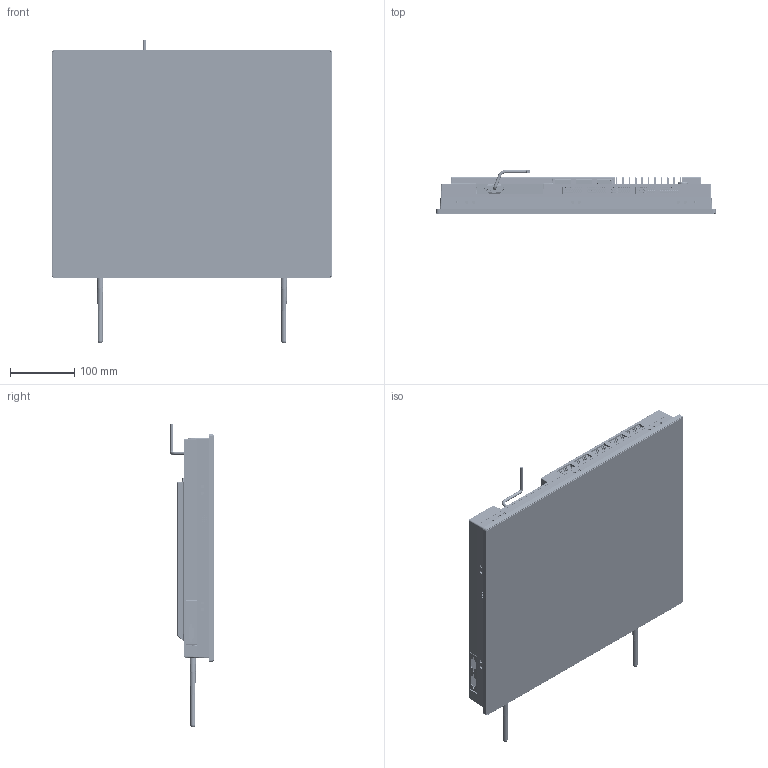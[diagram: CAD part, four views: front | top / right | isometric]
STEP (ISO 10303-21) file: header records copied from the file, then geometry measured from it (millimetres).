
FILE_DESCRIPTION (( 'STEP AP214' ), '1' );
FILE_NAME ('PPC-3170-RE4BE.STEP', '2019-01-07T01:43:10', ( '' ), ( '' ), 'SwSTEP 2.0', 'SolidWorks 2016', '' );
FILE_SCHEMA (( 'AUTOMOTIVE_DESIGN' ));
Length unit declared in the file: millimetre
Products named in the file (33): Antenna-L-3170_蕼偞; PCM-8211-1213_蕼偞; WIFI导热BKT_預設; BRACKET-HDD-PPC3150_蕼偞; heatsink MEI bracket_蕼偞; Rear Cover assy PPC-3170C_蕼偞; 翞翐 M3-L 25_蕼偞; PPC-3170-RE4BE; PPC-3170 bracket IO_蕼偞; ironnet-1_蕼偞; AMT 17 GG_蕼偞; 1-pci-bkt; Speaker-1.2_蕼偞; Assm Front Bezel new  for PPC-3170C_蕼偞; EMI  bracket for PPC-3170_蕼偞; VASA_蕼偞; HEATSINK-PPC3150_蕼偞; Antenna-R-3170_蕼偞; Antenna_蕼偞; bracket for thermal-3150_蕼偞; ADD-ON_PCI-E_Card_蕼偞; Antenna-Base_蕼偞; realcover-ppc-3170-0307modify-2_蕼偞; BRACKET-EXP CARD-3170_蕼偞; MBFrame-ppc3170C_蕼偞; side IO BKT_蕼偞; pci-bkt-1_蕼偞; Mask-6170C for PPC-3170_蕼偞; M2 Thermal BKT for PPC-3150_蕼偞; MB Cover assy PPC-3170C_蕼偞; Front Bezel Hole Shelving new_蕼偞; side IO_蕼偞; VGA_Cable_蕼偞
Assembly tree (35 placements, depth 4):
  PPC-3170-RE4BE
    Assm Front Bezel new  for PPC-3170C_蕼偞
      AMT 17 GG_蕼偞
      Mask-6170C for PPC-3170_蕼偞
      Front Bezel Hole Shelving new_蕼偞
    MB Cover assy PPC-3170C_蕼偞
      VASA_蕼偞
        BRACKET-HDD-PPC3150_蕼偞
        WIFI导热BKT_預設
        M2 Thermal BKT for PPC-3150_蕼偞
      BRACKET-EXP CARD-3170_蕼偞
      side IO_蕼偞
        side IO BKT_蕼偞
      PPC-3170 bracket IO_蕼偞
      ADD-ON_PCI-E_Card_蕼偞
        pci-bkt-1_蕼偞
        1-pci-bkt
      翞翐 M3-L 25_蕼偞
      PCM-8211-1213_蕼偞
      MBFrame-ppc3170C_蕼偞
      VGA_Cable_蕼偞
      Antenna-R-3170_蕼偞
        Antenna_蕼偞
        Antenna-Base_蕼偞
      Antenna-L-3170_蕼偞
        Antenna_蕼偞
        Antenna-Base_蕼偞
      Speaker-1.2_蕼偞  x2
      HEATSINK-PPC3150_蕼偞
      heatsink MEI bracket_蕼偞
      EMI  bracket for PPC-3170_蕼偞
    Rear Cover assy PPC-3170C_蕼偞
      realcover-ppc-3170-0307modify-2_蕼偞
      bracket for thermal-3150_蕼偞
      ironnet-1_蕼偞
Bounding box: 437 x 68.25 x 473.36 mm (x, y, z)
Volume: 1631718.6 mm3; surface area: 1398949.2 mm2
Topology: 26 solids, 245 shells, 7961 faces, 24137 edges, 16312 vertices
Faces by surface type: plane 4579, cylinder 2686, cone 322, bspline 239, torus 111, sphere 24
Entity records: 312906 total; most frequent: CARTESIAN_POINT 73250, ORIENTED_EDGE 43429, DIRECTION 41738, EDGE_CURVE 23896, VERTEX_POINT 16180, VECTOR 15974, LINE 15974, AXIS2_PLACEMENT_3D 12882
